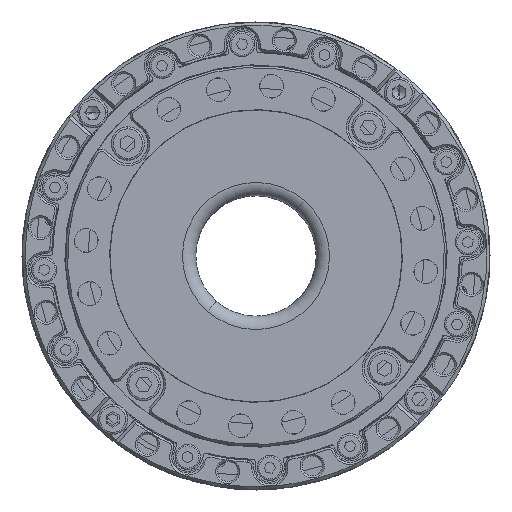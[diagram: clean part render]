
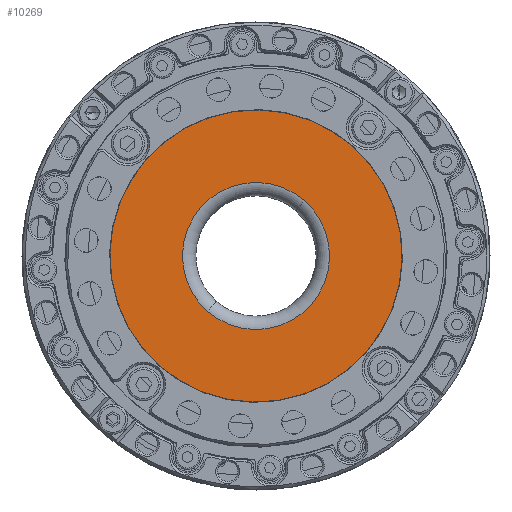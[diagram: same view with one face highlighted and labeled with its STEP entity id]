
A CAD part, front view. The second image highlights one B-rep face of the part: STEP entity #10269.
In plain terms, the highlighted planar face has unit normal (0, -1, 0).
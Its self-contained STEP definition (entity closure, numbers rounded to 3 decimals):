
#790 = EDGE_CURVE ( 'NONE', #40899, #4145, #14515, .T. ) ;
#855 = FACE_BOUND ( 'NONE', #32376, .T. ) ;
#1506 = CARTESIAN_POINT ( 'NONE',  ( -1.816, -29.909, 2.069 ) ) ;
#2322 = EDGE_CURVE ( 'NONE', #4145, #40899, #25055, .T. ) ;
#3861 = DIRECTION ( 'NONE',  ( 0.659, 0., 0.752 ) ) ;
#4145 = VERTEX_POINT ( 'NONE', #11621 ) ;
#5724 = AXIS2_PLACEMENT_3D ( 'NONE', #1506, #23667, #20135 ) ;
#6816 = CARTESIAN_POINT ( 'NONE',  ( 12.592, -29.909, 18.496 ) ) ;
#6961 = ORIENTED_EDGE ( 'NONE', *, *, #790, .T. ) ;
#7192 = AXIS2_PLACEMENT_3D ( 'NONE', #26661, #29348, #10504 ) ;
#8880 = EDGE_CURVE ( 'NONE', #29821, #9242, #23591, .T. ) ;
#8896 = DIRECTION ( 'NONE',  ( 0., -1., 0. ) ) ;
#9106 = DIRECTION ( 'NONE',  ( 0.659, 0., 0.752 ) ) ;
#9242 = VERTEX_POINT ( 'NONE', #26912 ) ;
#9423 = ORIENTED_EDGE ( 'NONE', *, *, #2322, .T. ) ;
#10269 = ADVANCED_FACE ( 'NONE', ( #855, #34455 ), #13467, .T. ) ;
#10504 = DIRECTION ( 'NONE',  ( 0.659, 0., 0.752 ) ) ;
#11621 = CARTESIAN_POINT ( 'NONE',  ( -16.223, -29.909, -14.358 ) ) ;
#12019 = CARTESIAN_POINT ( 'NONE',  ( -1.816, -29.909, 2.069 ) ) ;
#12706 = CARTESIAN_POINT ( 'NONE',  ( 5.438, -29.909, 10.339 ) ) ;
#13076 = AXIS2_PLACEMENT_3D ( 'NONE', #15396, #32520, #38746 ) ;
#13467 = PLANE ( 'NONE',  #13076 ) ;
#14515 = CIRCLE ( 'NONE', #21779, 21.85 ) ;
#15178 = AXIS2_PLACEMENT_3D ( 'NONE', #31825, #35743, #3861 ) ;
#15396 = CARTESIAN_POINT ( 'NONE',  ( -1.816, -29.909, 2.069 ) ) ;
#20135 = DIRECTION ( 'NONE',  ( 0.659, 0., 0.752 ) ) ;
#21779 = AXIS2_PLACEMENT_3D ( 'NONE', #12019, #8896, #9106 ) ;
#22403 = EDGE_CURVE ( 'NONE', #9242, #29821, #30414, .T. ) ;
#23591 = CIRCLE ( 'NONE', #5724, 11. ) ;
#23667 = DIRECTION ( 'NONE',  ( 0., 1., 0. ) ) ;
#24558 = ORIENTED_EDGE ( 'NONE', *, *, #22403, .T. ) ;
#24560 = EDGE_LOOP ( 'NONE', ( #6961, #9423 ) ) ;
#25055 = CIRCLE ( 'NONE', #7192, 21.85 ) ;
#26661 = CARTESIAN_POINT ( 'NONE',  ( -1.816, -29.909, 2.069 ) ) ;
#26912 = CARTESIAN_POINT ( 'NONE',  ( -9.069, -29.909, -6.201 ) ) ;
#29348 = DIRECTION ( 'NONE',  ( 0., -1., 0. ) ) ;
#29669 = ORIENTED_EDGE ( 'NONE', *, *, #8880, .T. ) ;
#29821 = VERTEX_POINT ( 'NONE', #12706 ) ;
#30414 = CIRCLE ( 'NONE', #15178, 11. ) ;
#31825 = CARTESIAN_POINT ( 'NONE',  ( -1.816, -29.909, 2.069 ) ) ;
#32376 = EDGE_LOOP ( 'NONE', ( #29669, #24558 ) ) ;
#32520 = DIRECTION ( 'NONE',  ( 0., -1., 0. ) ) ;
#34455 = FACE_OUTER_BOUND ( 'NONE', #24560, .T. ) ;
#35743 = DIRECTION ( 'NONE',  ( 0., 1., 0. ) ) ;
#38746 = DIRECTION ( 'NONE',  ( 0.659, 0., 0.752 ) ) ;
#40899 = VERTEX_POINT ( 'NONE', #6816 ) ;
